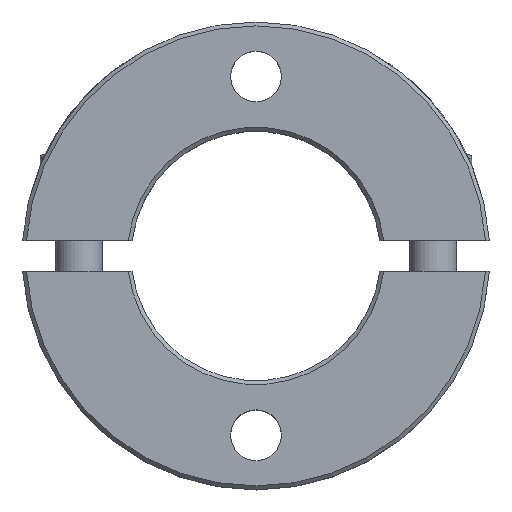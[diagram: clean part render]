
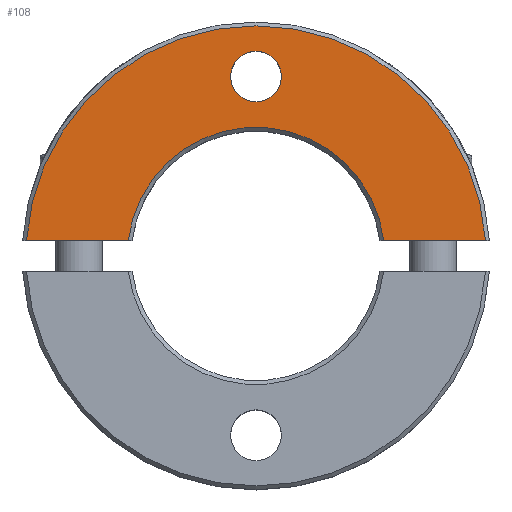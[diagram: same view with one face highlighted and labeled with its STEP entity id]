
A CAD part, top view. The second image highlights one B-rep face of the part: STEP entity #108.
In plain terms, the highlighted planar face has unit normal (0, 0, 1).
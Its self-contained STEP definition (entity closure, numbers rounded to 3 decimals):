
#108 = ADVANCED_FACE( '', ( #212, #213 ), #214, .T. );
#212 = FACE_OUTER_BOUND( '', #344, .T. );
#213 = FACE_BOUND( '', #345, .T. );
#214 = PLANE( '', #346 );
#344 = EDGE_LOOP( '', ( #630, #631, #632, #633 ) );
#345 = EDGE_LOOP( '', ( #634 ) );
#346 = AXIS2_PLACEMENT_3D( '', #635, #636, #637 );
#630 = ORIENTED_EDGE( '', *, *, #839, .F. );
#631 = ORIENTED_EDGE( '', *, *, #832, .T. );
#632 = ORIENTED_EDGE( '', *, *, #776, .F. );
#633 = ORIENTED_EDGE( '', *, *, #781, .F. );
#634 = ORIENTED_EDGE( '', *, *, #810, .T. );
#635 = CARTESIAN_POINT( '', ( 0., 16.5, 7.5 ) );
#636 = DIRECTION( '', ( 0., 0., 1. ) );
#637 = DIRECTION( '', ( 1., 0., 0. ) );
#776 = EDGE_CURVE( '', #896, #898, #899, .T. );
#781 = EDGE_CURVE( '', #907, #896, #908, .T. );
#810 = EDGE_CURVE( '', #958, #958, #959, .F. );
#832 = EDGE_CURVE( '', #996, #898, #997, .T. );
#839 = EDGE_CURVE( '', #996, #907, #1004, .T. );
#896 = VERTEX_POINT( '', #1103 );
#898 = VERTEX_POINT( '', #1108 );
#899 = LINE( '', #1109, #1110 );
#907 = VERTEX_POINT( '', #1126 );
#908 = CIRCLE( '', #1127, 16.5 );
#958 = VERTEX_POINT( '', #1280 );
#959 = CIRCLE( '', #1281, 3.25 );
#996 = VERTEX_POINT( '', #1420 );
#997 = CIRCLE( '', #1421, 29.5 );
#1004 = LINE( '', #1431, #1432 );
#1103 = CARTESIAN_POINT( '', ( -16.378, 2., 7.5 ) );
#1108 = CARTESIAN_POINT( '', ( -29.432, 2., 7.5 ) );
#1109 = CARTESIAN_POINT( '', ( 0., 2., 7.5 ) );
#1110 = VECTOR( '', #1514, 1000. );
#1126 = CARTESIAN_POINT( '', ( 16.378, 2., 7.5 ) );
#1127 = AXIS2_PLACEMENT_3D( '', #1517, #1518, #1519 );
#1280 = CARTESIAN_POINT( '', ( 3.25, 23., 7.5 ) );
#1281 = AXIS2_PLACEMENT_3D( '', #1562, #1563, #1564 );
#1420 = CARTESIAN_POINT( '', ( 29.432, 2., 7.5 ) );
#1421 = AXIS2_PLACEMENT_3D( '', #1598, #1599, #1600 );
#1431 = CARTESIAN_POINT( '', ( 32., 2., 7.5 ) );
#1432 = VECTOR( '', #1616, 1000. );
#1514 = DIRECTION( '', ( -1., 0., 0. ) );
#1517 = CARTESIAN_POINT( '', ( 0., 0., 7.5 ) );
#1518 = DIRECTION( '', ( 0., 0., 1. ) );
#1519 = DIRECTION( '', ( 1., 0., 0. ) );
#1562 = CARTESIAN_POINT( '', ( 0., 23., 7.5 ) );
#1563 = DIRECTION( '', ( 0., 0., 1. ) );
#1564 = DIRECTION( '', ( 1., 0., 0. ) );
#1598 = CARTESIAN_POINT( '', ( 0., 0., 7.5 ) );
#1599 = DIRECTION( '', ( 0., 0., 1. ) );
#1600 = DIRECTION( '', ( 1., 0., 0. ) );
#1616 = DIRECTION( '', ( -1., 0., 0. ) );
